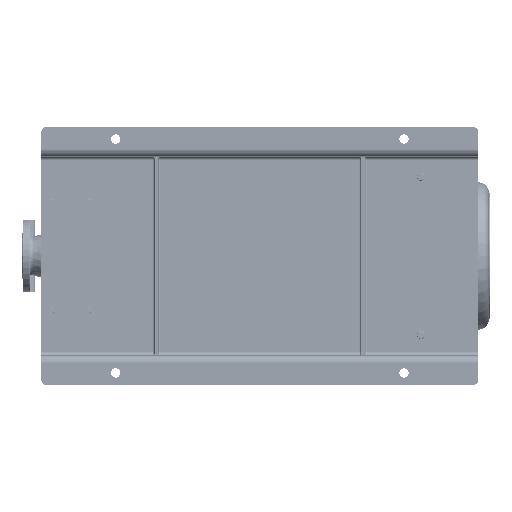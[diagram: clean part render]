
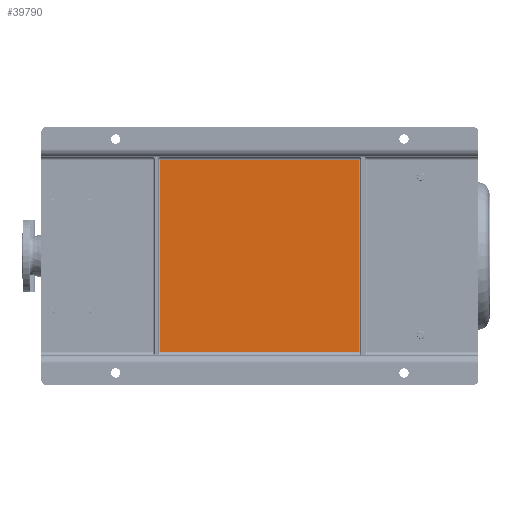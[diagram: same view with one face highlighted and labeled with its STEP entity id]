
A CAD part, front view. The second image highlights one B-rep face of the part: STEP entity #39790.
In plain terms, the highlighted planar face has unit normal (0, -1, 0).
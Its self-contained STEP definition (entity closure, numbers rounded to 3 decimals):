
#3474 = CARTESIAN_POINT ( 'NONE',  ( 575., 65., -815. ) ) ;
#4772 = DIRECTION ( 'NONE',  ( 0., 0., -1. ) ) ;
#5183 = VERTEX_POINT ( 'NONE', #24613 ) ;
#6470 = VECTOR ( 'NONE', #39533, 1000. ) ;
#17388 = FACE_OUTER_BOUND ( 'NONE', #174292, .T. ) ;
#18257 = CARTESIAN_POINT ( 'NONE',  ( 75., 65., -1120. ) ) ;
#18396 = DIRECTION ( 'NONE',  ( 0., 0., -1. ) ) ;
#20060 = LINE ( 'NONE', #171752, #6470 ) ;
#24613 = CARTESIAN_POINT ( 'NONE',  ( 85., 65., -815. ) ) ;
#37971 = VECTOR ( 'NONE', #109505, 1000. ) ;
#39533 = DIRECTION ( 'NONE',  ( -1., 0., 0. ) ) ;
#39790 = ADVANCED_FACE ( 'NONE', ( #17388 ), #141256, .T. ) ;
#40358 = CARTESIAN_POINT ( 'NONE',  ( 575., 65., -300. ) ) ;
#44098 = CARTESIAN_POINT ( 'NONE',  ( 85., 65., -305. ) ) ;
#49867 = EDGE_CURVE ( 'NONE', #64909, #5183, #60582, .T. ) ;
#52219 = VECTOR ( 'NONE', #18396, 1000. ) ;
#53050 = CARTESIAN_POINT ( 'NONE',  ( 575., 65., -305. ) ) ;
#56781 = CARTESIAN_POINT ( 'NONE',  ( 75., 65., -815. ) ) ;
#60582 = LINE ( 'NONE', #170081, #52219 ) ;
#64909 = VERTEX_POINT ( 'NONE', #44098 ) ;
#69411 = LINE ( 'NONE', #56781, #135099 ) ;
#73040 = DIRECTION ( 'NONE',  ( 0., -1., 0. ) ) ;
#74795 = ORIENTED_EDGE ( 'NONE', *, *, #112781, .T. ) ;
#99151 = EDGE_CURVE ( 'NONE', #111821, #101430, #136409, .T. ) ;
#101130 = ORIENTED_EDGE ( 'NONE', *, *, #110746, .T. ) ;
#101430 = VERTEX_POINT ( 'NONE', #53050 ) ;
#109505 = DIRECTION ( 'NONE',  ( 0., 0., 1. ) ) ;
#110746 = EDGE_CURVE ( 'NONE', #5183, #111821, #69411, .T. ) ;
#111821 = VERTEX_POINT ( 'NONE', #3474 ) ;
#112781 = EDGE_CURVE ( 'NONE', #101430, #64909, #20060, .T. ) ;
#128759 = ORIENTED_EDGE ( 'NONE', *, *, #99151, .T. ) ;
#135099 = VECTOR ( 'NONE', #165402, 1000. ) ;
#136409 = LINE ( 'NONE', #40358, #37971 ) ;
#141256 = PLANE ( 'NONE',  #148624 ) ;
#148624 = AXIS2_PLACEMENT_3D ( 'NONE', #18257, #73040, #4772 ) ;
#165402 = DIRECTION ( 'NONE',  ( 1., 0., 0. ) ) ;
#170081 = CARTESIAN_POINT ( 'NONE',  ( 85., 65., -820. ) ) ;
#171752 = CARTESIAN_POINT ( 'NONE',  ( 75., 65., -305. ) ) ;
#174292 = EDGE_LOOP ( 'NONE', ( #176048, #101130, #128759, #74795 ) ) ;
#176048 = ORIENTED_EDGE ( 'NONE', *, *, #49867, .T. ) ;
